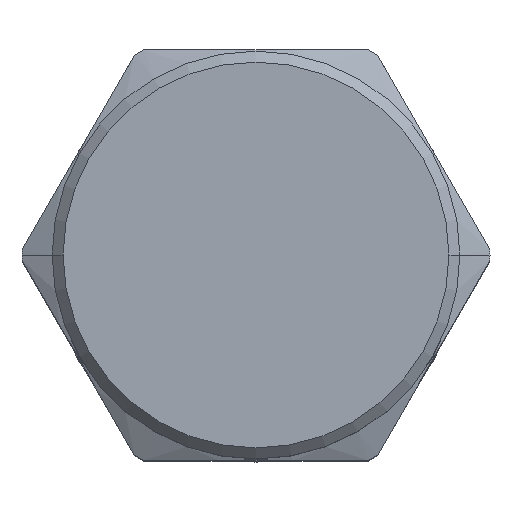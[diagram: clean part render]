
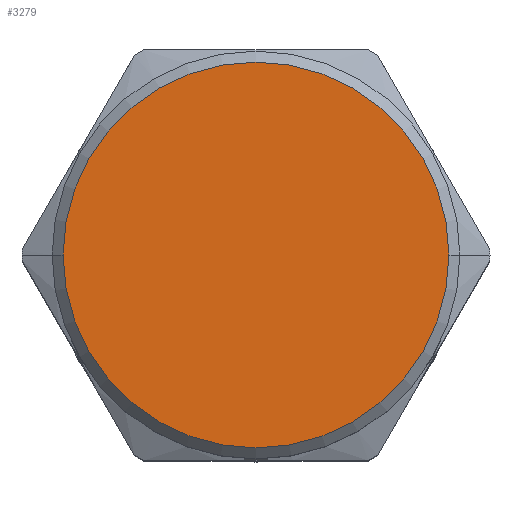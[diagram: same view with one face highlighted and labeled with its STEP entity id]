
A CAD part, top view. The second image highlights one B-rep face of the part: STEP entity #3279.
In plain terms, the highlighted planar face has unit normal (0, 0, 1).
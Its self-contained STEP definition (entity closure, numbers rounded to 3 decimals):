
#808=CARTESIAN_POINT('',(0.,0.,81.788));
#809=DIRECTION('',(0.,0.,-1.));
#810=DIRECTION('',(-1.,0.,0.));
#811=AXIS2_PLACEMENT_3D('',#808,#809,#810);
#813=CARTESIAN_POINT('',(0.,0.,81.788));
#814=DIRECTION('',(0.,0.,-1.));
#815=DIRECTION('',(1.,0.,0.));
#816=AXIS2_PLACEMENT_3D('',#813,#814,#815);
#1943=CARTESIAN_POINT('',(-22.352,0.,81.788));
#1944=CARTESIAN_POINT('',(22.352,0.,81.788));
#1945=VERTEX_POINT('',#1943);
#1946=VERTEX_POINT('',#1944);
#3269=CARTESIAN_POINT('',(0.,0.,81.788));
#3270=DIRECTION('',(0.,0.,1.));
#3271=DIRECTION('',(1.,0.,0.));
#3272=AXIS2_PLACEMENT_3D('',#3269,#3270,#3271);
#3273=PLANE('',#3272);
#3274=ORIENTED_EDGE('',*,*,#3259,.T.);
#3276=ORIENTED_EDGE('',*,*,#3275,.T.);
#3277=EDGE_LOOP('',(#3274,#3276));
#3278=FACE_OUTER_BOUND('',#3277,.F.);
#3279=ADVANCED_FACE('',(#3278),#3273,.T.);
#812=CIRCLE('',#811,22.352);
#817=CIRCLE('',#816,22.352);
#3259=EDGE_CURVE('',#1945,#1946,#812,.T.);
#3275=EDGE_CURVE('',#1946,#1945,#817,.T.);
